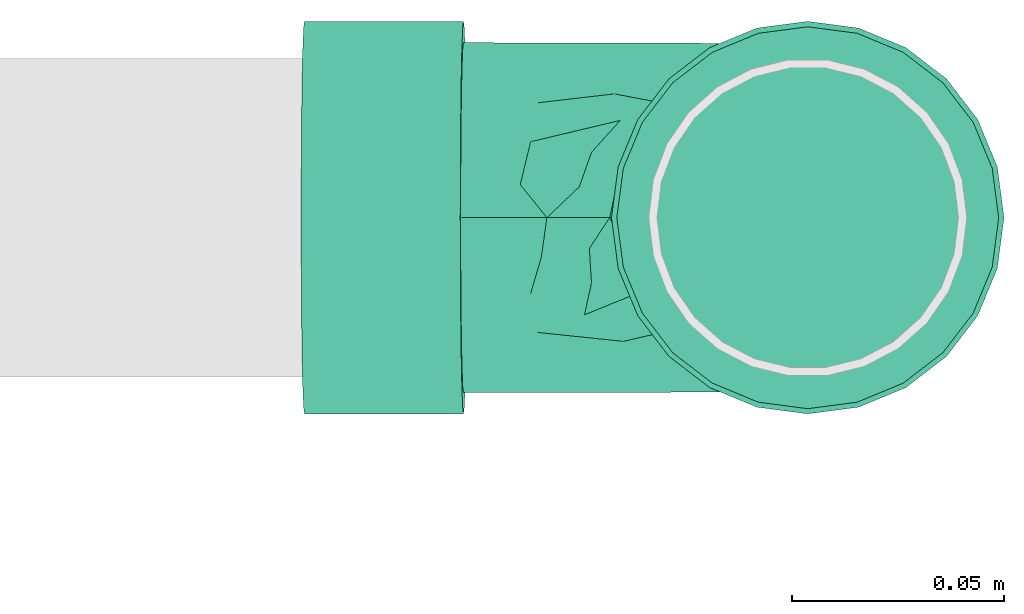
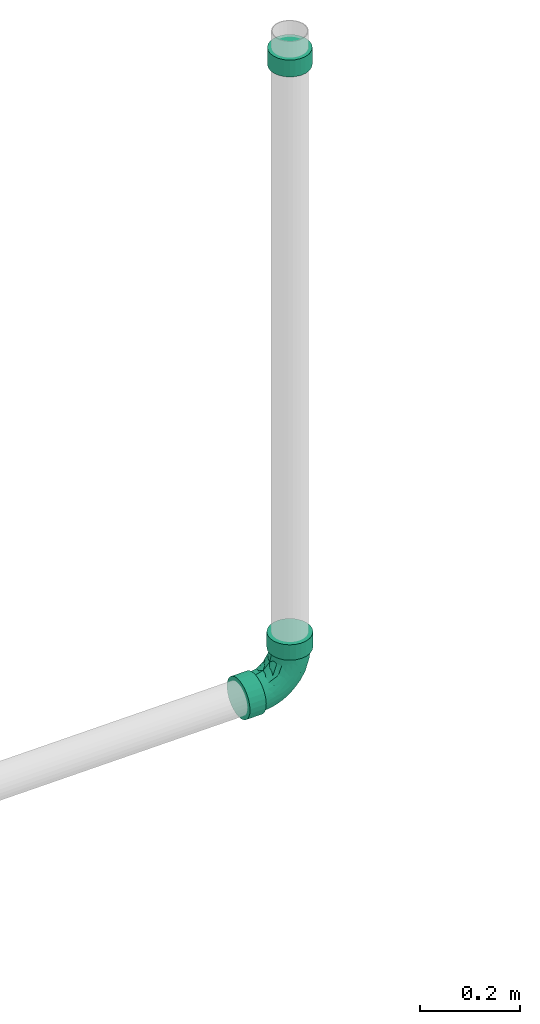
# One storey, part 17 of 18: 2 flow fittings.
"""IFC2X3 building model written with IfcOpenShell, lengths in millimetres."""

from ifc_helpers import new_model, entity, si_unit, converted_unit, derived_unit, direction, frame, origin_with_axes, place, context, subcontext, project, spatial, open_shell, surface_model, source, transform, mapped, type_object, element, save


model = new_model("IFC2X3")

# Units and contexts
model_context = context("Model", 3, precision=0.01, world=frame((0.0, 4.29681676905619e-09, 0.0)), true_north=direction((4.01073788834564e-13, 1.0)))
plan_context = context("Plan", 3, precision=0.01, world=frame((0.0, 4.29681676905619e-09, 0.0)), true_north=direction((4.01073788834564e-13, 1.0)))
body_context = subcontext(model_context, "Body", "Model", "MODEL_VIEW")
ifc_project = project(units=[converted_unit("PLANEANGLEUNIT", "DEGREE", entity("IfcPositiveLengthMeasure", 0.0174532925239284), si_unit("PLANEANGLEUNIT", "RADIAN"), dimensions=[0, 0, 0, 0, 0, 0, 0]), si_unit("AREAUNIT", "SQUARE_METRE"), si_unit("LENGTHUNIT", "METRE", prefix="MILLI"), si_unit("MASSUNIT", "GRAM", prefix="KILO"), si_unit("POWERUNIT", "WATT"), si_unit("PRESSUREUNIT", "PASCAL", prefix="KILO"), si_unit("FORCEUNIT", "NEWTON", prefix="KILO"), si_unit("ELECTRICVOLTAGEUNIT", "VOLT"), si_unit("ELECTRICCURRENTUNIT", "AMPERE"), si_unit("THERMODYNAMICTEMPERATUREUNIT", "DEGREE_CELSIUS"), si_unit("TIMEUNIT", "SECOND"), si_unit("VOLUMEUNIT", "CUBIC_METRE"), derived_unit("LINEARVELOCITYUNIT", [(si_unit("LENGTHUNIT", "METRE"), 1), (si_unit("TIMEUNIT", "SECOND"), -1)]), derived_unit("VOLUMETRICFLOWRATEUNIT", [(si_unit("VOLUMEUNIT", "CUBIC_METRE"), 1), (si_unit("TIMEUNIT", "SECOND"), -1)]), derived_unit("THERMALTRANSMITTANCEUNIT", [(si_unit("POWERUNIT", "WATT"), 1), (si_unit("THERMODYNAMICTEMPERATUREUNIT", "KELVIN"), -1), (si_unit("AREAUNIT", "SQUARE_METRE"), -1)]), derived_unit("SOUNDPRESSUREUNIT", [(si_unit("PRESSUREUNIT", "PASCAL"), 1)])], contexts=[model_context, plan_context])

# Site, building, storey
site_placement = place(None, frame((0.0, -4.29681676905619e-09, 0.0), z_axis=(0.0, 0.0, 1.0), x_axis=(1.0, 0.0, 0.0)))
site = spatial("IfcSite", under=ifc_project, at=site_placement, Name="ENGM", CompositionType="ELEMENT")
building_placement = place(site_placement, frame((0.0, 4.29681676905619e-09, 0.0), z_axis=(0.0, 0.0, 1.0), x_axis=(1.0, 0.0, 0.0)))
building = spatial("IfcBuilding", under=site, at=building_placement, Name="TI", CompositionType="ELEMENT")
storey_placement = place(building_placement, frame((0.0, 0.0, 204000.0), z_axis=(0.0, 0.0, 1.0), x_axis=(1.0, 0.0, 0.0)))
storey = spatial("IfcBuildingStorey", under=building, at=storey_placement, Name="Nivå D", CompositionType="ELEMENT", Elevation=204000.0)

# Flow fittings
pipe_fitting_type_1 = type_object("IfcPipeFittingType", Name="magi_sewer_bend_001", PredefinedType="BEND")
shared_shape_1 = source(origin_with_axes(), body_context, "Body", "SurfaceModel", [
    surface_model("IfcShellBasedSurfaceModel", [(-118.63645, -44.67407, -11.97038), (-118.63645, -11.97038, -44.67407), (-118.63645, -23.125, -40.05367), (-118.63645, -32.70369, -32.70369), (-118.63645, 0.0, -46.25), (-118.63645, -40.05367, -23.125), (-118.63645, -46.25, 0.0), (-118.63645, 11.97038, -44.67407), (-118.63645, 32.70369, -32.70369), (-118.63645, 23.125, -40.05367), (-118.63645, 44.67407, -11.97038), (-118.63645, 40.05367, -23.125), (-118.63645, -32.70369, 32.70369), (-118.63645, -44.67407, 11.97038), (-118.63645, -40.05367, 23.125), (-118.63645, 40.05367, 23.125), (-118.63645, -23.125, 40.05367), (-118.63645, -11.97038, 44.67407), (-118.63645, 0.0, 46.25), (-118.63645, 11.97038, 44.67407), (-118.63645, 44.67407, 11.97038), (-118.63645, 46.25, 0.0), (-118.63645, 23.125, 40.05367), (-118.63645, 32.70369, 32.70369), (-81.13645, 0.0, 46.25), (-81.13645, -11.97038, 44.67407), (-81.13645, -23.125, 40.05367), (-81.13645, -32.70369, 32.70369), (-81.13645, -40.05367, 23.125), (-81.13645, -44.67407, 11.97038), (-81.13645, 40.05367, 23.125), (-81.13645, -44.67407, -11.97038), (-81.13645, 23.125, 40.05367), (-81.13645, 32.70369, 32.70369), (-81.13645, 11.97038, 44.67407), (-81.13645, 44.67407, 11.97038), (-81.13645, 44.67407, -11.97038), (-81.13645, 46.25, 0.0), (-81.13645, -32.70369, -32.70369), (-81.13645, -40.05367, -23.125), (-81.13645, -23.125, -40.05367), (-81.13645, -11.97038, -44.67407), (-81.13645, 11.97038, -44.67407), (-81.13645, 32.70369, -32.70369), (-81.13645, 40.05367, -23.125), (-81.13645, 23.125, -40.05367), (-81.13645, 0.0, -46.25), (-81.13645, -46.25, 0.0), (-38.07111, 119.28745, 23.125), (-44.26658, 119.39071, 0.0), (-42.69087, 119.36444, 11.97038), (-9.99172, 118.81946, 44.67407), (-30.72215, 119.16497, 32.70369), (-30.72215, 119.16497, -32.70369), (-21.14479, 119.00535, 40.05367), (42.02511, 117.95251, 23.125), (-9.99172, 118.81946, -44.67407), (-42.69087, 119.36444, -11.97038), (-38.07111, 119.28745, -23.125), (-21.14479, 119.00535, -40.05367), (1.977, 118.61999, 46.25), (34.67615, 118.075, 32.70369), (13.94572, 118.42051, 44.67407), (25.09879, 118.23462, 40.05367), (1.977, 118.61999, -46.25), (46.64486, 117.87552, 11.97038), (48.22058, 117.84926, 0.0), (46.64486, 117.87552, -11.97038), (25.09879, 118.23462, -40.05367), (13.94572, 118.42051, -44.67407), (34.67615, 118.075, -32.70369), (42.02511, 117.95251, -23.125), (46.01995, 80.38072, -11.97038), (47.59566, 80.35446, 0.0), (46.01995, 80.38072, 11.97038), (41.4002, 80.45773, 23.125), (34.05123, 80.5802, 32.70369), (24.47388, 80.73983, 40.05367), (13.32081, 80.92571, 44.67407), (-10.61663, 81.32467, 44.67407), (24.47388, 80.73983, -40.05367), (34.05123, 80.5802, -32.70369), (41.4002, 80.45773, -23.125), (13.32081, 80.92571, -44.67407), (-10.61663, 81.32467, -44.67407), (1.35209, 81.12519, -46.25), (-38.69603, 81.79266, 23.125), (-21.7697, 81.51055, 40.05367), (-31.34706, 81.67018, 32.70369), (-43.31578, 81.86966, 11.97038), (-31.34706, 81.67018, -32.70369), (-21.7697, 81.51055, -40.05367), (-43.31578, 81.86966, -11.97038), (-38.69603, 81.79266, -23.125), (-44.89149, 81.89592, 0.0), (1.35209, 81.12519, 46.25), (-81.13645, 10.67629, -39.84444), (-81.13645, 0.0, -41.25), (-81.13645, 35.72355, -20.625), (-81.13645, 20.625, -35.72355), (-81.13645, -10.67629, -39.84444), (-81.13645, 29.16816, -29.16816), (-81.13645, 39.84444, -10.67629), (-81.13645, -29.16816, -29.16816), (-81.13645, -35.72355, -20.625), (-81.13645, -20.625, -35.72355), (-81.13645, -39.84444, -10.67629), (-81.13645, -41.25, 0.0), (-81.13645, -39.84444, 10.67629), (-81.13645, 41.25, 0.0), (-81.13645, 35.72355, 20.625), (-81.13645, 39.84444, 10.67629), (-81.13645, 10.67629, 39.84444), (-81.13645, 20.625, 35.72355), (-81.13645, 29.16816, 29.16816), (-81.13645, -35.72355, 20.625), (-81.13645, -29.16816, 29.16816), (-81.13645, -10.67629, 39.84444), (-81.13645, -20.625, 35.72355), (-81.13645, 0.0, 41.25), (-9.32272, 81.3031, -39.84444), (37.07067, 80.52988, -20.625), (1.35209, 81.12519, -41.25), (-27.81202, 81.61126, -29.16816), (-19.27005, 81.46889, -35.72355), (41.191, 80.46121, 10.67629), (-34.3665, 81.7205, -20.625), (21.97422, 80.78149, -35.72355), (30.51619, 80.63912, -29.16816), (12.02689, 80.94728, -39.84444), (41.191, 80.46121, -10.67629), (42.59636, 80.43779, 0.0), (-38.48682, 81.78918, -10.67629), (-39.89219, 81.81259, 0.0), (-38.48682, 81.78918, 10.67629), (-34.3665, 81.7205, 20.625), (-27.81202, 81.61126, 29.16816), (-19.27005, 81.46889, 35.72355), (-9.32272, 81.3031, 39.84444), (30.51619, 80.63912, 29.16816), (1.35209, 81.12519, 41.25), (37.07067, 80.52988, 20.625), (12.02689, 80.94728, 39.84444), (21.97422, 80.78149, 35.72355), (-54.39442, -36.17404, 12.99457), (-59.16193, -32.03479, 23.17612), (-43.28809, -35.32005, 0.0), (-60.84196, -38.07033, 0.0), (23.37041, 18.86095, 10.62349), (15.01238, 9.79779, 15.95055), (11.94444, 2.36888, 8.70418), (-61.88845, -5.46813, 40.5533), (-56.57345, 6.31813, 41.17681), (32.38619, 35.45125, 8.39828), (27.1418, 25.72883, 0.0), (-58.98118, -15.54274, 37.10832), (-30.85607, -9.76023, 34.5265), (-40.12451, -0.47476, 40.00525), (-68.72839, -25.45103, 31.89237), (-35.98602, -31.79092, 8.39828), (-26.17756, -26.70928, 0.0), (-6.74396, 6.85729, 33.83574), (-14.04648, -9.83948, 26.468), (-39.19131, 65.31528, 17.88497), (-14.23306, 70.22892, 38.62481), (-4.65309, 60.53836, 41.14609), (-62.27481, 16.19182, 38.95705), (-10.07336, 26.71188, 40.49708), (-19.56807, 7.50587, 38.60631), (-3.30313, 21.70945, 37.91013), (-70.23759, 24.97294, 33.58539), (-13.65396, 39.94702, 41.16014), (-29.72786, 30.22745, 40.21467), (-23.93531, 17.70774, 41.06244), (-62.06374, 44.71052, 9.37653), (-64.65311, 40.27431, 17.88497), (26.59281, 68.29472, 31.89237), (-63.23862, 34.37113, 27.04031), (-42.66984, 45.56196, 29.16641), (-51.8902, 44.18713, 22.91415), (-33.39862, 63.50778, 27.07262), (16.52346, 58.71398, 37.10832), (24.38357, 51.08549, 30.6589), (33.01624, 58.61988, 23.17612), (25.6206, 31.60074, 20.54424), (37.07546, 53.78405, 12.99457), (-9.06702, -18.0985, 0.0), (-19.24778, -23.05286, 10.62349), (6.4987, 61.78873, 40.5533), (-44.29082, 17.50905, 40.50755), (-39.59673, 10.04822, 41.2375), (18.24709, 8.76416, 0.0), (39.07893, 60.1991, 0.0), (-43.03932, 27.67385, 38.13016), (-32.0233, -25.09044, 20.54424), (-51.48473, -23.52888, 30.6589), (-29.00264, 52.56785, 34.64816), (-24.07159, 68.2883, 33.76756), (-50.57861, 53.84244, 7.25586), (-60.71022, 46.66243, 0.0), (19.67072, 31.77171, 27.9348), (10.27307, 30.68913, 34.5265), (10.07219, 13.88056, 26.468), (-45.64426, 61.47939, 0.0), (-41.82083, 67.74942, 7.78687), (-37.43075, 42.9787, 33.8492), (-55.83247, 27.89915, 34.6893), (-31.91377, -18.01784, 28.91129), (-22.76666, 42.19771, 39.59466), (-32.08476, 39.39323, 37.49357), (-16.86515, 55.15006, 39.26198), (-50.12448, 50.96685, 15.38789), (1.14334, 40.11103, 40.00525), (-2.41073, -11.82067, 8.53117), (-9.77489, -14.76888, 15.71619), (-2.34518, 2.38459, 28.45121), (3.16609, -3.21929, 16.67866), (36.03651, 42.69349, 0.0), (4.59003, -4.66717, 0.0), (-62.94239, 34.4523, -27.07262), (-32.0951, -19.13853, -27.9348), (-30.85607, -9.76023, -34.5265), (-14.04648, -9.83948, -26.46799), (-60.45241, 5.66128, -41.14609), (16.52346, 58.71398, -37.10832), (10.27307, 30.68913, -34.5265), (1.14334, 40.11103, -40.00525), (-69.98198, 15.4014, -38.62481), (-23.79901, 70.644, -33.58539), (-33.31253, 63.80261, -27.04031), (-67.04309, 42.94403, -7.78687), (10.07219, 13.88056, -26.468), (18.54716, 31.60909, -28.91129), (-64.65311, 40.27431, -17.88497), (11.94444, 2.36888, -8.70418), (15.01238, 9.79779, -15.95055), (23.37041, 18.86095, -10.62349), (-38.85309, 32.73676, -37.49358), (-41.81246, 23.4667, -39.59466), (-52.07724, 29.87463, -34.64816), (-6.74396, 6.85729, -33.83574), (-26.5403, 10.5171, -40.49708), (-7.17874, 19.69043, -38.60631), (-21.65139, 3.66445, -37.91013), (-67.87768, 25.20623, -33.76756), (-54.39442, -36.17404, -12.99457), (-44.84457, 43.42318, -29.16641), (-59.16193, -32.03479, -23.17612), (-32.0233, -25.09044, -20.54424), (-19.24778, -23.05286, -10.62349), (-35.98602, -31.79092, -8.39828), (-58.98118, -15.54274, -37.10832), (-61.88845, -5.46813, -40.5533), (-54.86135, 17.78185, -39.26198), (-39.71394, 14.31775, -41.16014), (-15.15181, 62.53599, -38.95705), (-5.37449, 56.67088, -41.17681), (-43.67006, 62.80019, -9.37653), (-52.99211, 51.46884, -7.25586), (-26.95278, 43.49451, -38.13017), (-16.76854, 44.57645, -40.50755), (-43.31628, 52.61934, -22.91415), (6.49871, 61.78872, -40.5533), (-2.41073, -11.82067, -8.53117), (37.07546, 53.78405, -12.99457), (33.01624, 58.61988, -23.17612), (-68.72839, -25.45103, -31.89237), (-29.72786, 30.22745, -40.21467), (-17.30642, 24.22707, -41.06244), (26.59281, 68.29472, -31.89237), (-51.48473, -23.52888, -30.6589), (-39.19132, 65.31528, -17.88497), (32.38619, 35.45125, -8.39828), (-42.34897, 38.14177, -33.8492), (-26.96486, 56.28963, -34.6893), (25.62061, 31.60074, -20.54424), (24.38358, 51.08549, -30.6589), (-9.38697, 39.75868, -41.2375), (-50.12448, 50.96685, -15.38789), (-40.12451, -0.47476, -40.00525), (0.23726, -0.24125, -23.998), (-9.77489, -14.76888, -15.71619), (3.16609, -3.2193, -16.67866)], [open_shell([[[0, 1, 2]], [[0, 2, 3]], [[1, 0, 4]], [[0, 3, 5]], [[4, 0, 6]], [[7, 8, 9]], [[8, 7, 4]], [[8, 10, 11]], [[10, 8, 4]], [[4, 6, 10]], [[6, 12, 10]], [[13, 14, 12]], [[10, 12, 15]], [[16, 17, 18]], [[16, 18, 12]], [[19, 12, 18]], [[10, 20, 21]], [[15, 20, 10]], [[15, 22, 23]], [[22, 15, 19]], [[12, 19, 15]], [[6, 13, 12]], [[24, 25, 26]], [[24, 26, 27]], [[27, 28, 29]], [[24, 27, 30]], [[27, 31, 30]], [[32, 30, 33]], [[30, 32, 34]], [[35, 36, 37]], [[30, 34, 24]], [[35, 30, 36]], [[27, 29, 31]], [[36, 30, 31]], [[38, 31, 39]], [[40, 41, 31]], [[40, 31, 38]], [[42, 31, 41]], [[36, 43, 44]], [[36, 31, 43]], [[43, 42, 45]], [[31, 42, 43]], [[41, 46, 42]], [[31, 29, 47]], [[36, 10, 37]], [[44, 11, 36]], [[9, 43, 45]], [[44, 43, 8]], [[7, 45, 42]], [[36, 11, 10]], [[10, 21, 37]], [[7, 9, 45]], [[8, 43, 9]], [[8, 11, 44]], [[4, 7, 42]], [[42, 46, 4]], [[46, 41, 1]], [[5, 39, 31]], [[39, 3, 38]], [[0, 31, 47]], [[1, 40, 2]], [[40, 1, 41]], [[40, 38, 2]], [[38, 3, 2]], [[39, 5, 3]], [[0, 5, 31]], [[47, 6, 0]], [[46, 1, 4]], [[29, 13, 47]], [[28, 14, 29]], [[16, 27, 26]], [[28, 27, 12]], [[17, 26, 25]], [[29, 14, 13]], [[13, 6, 47]], [[17, 16, 26]], [[12, 27, 16]], [[12, 14, 28]], [[18, 17, 25]], [[25, 24, 18]], [[33, 22, 32]], [[35, 15, 30]], [[33, 30, 23]], [[20, 35, 37]], [[32, 19, 34]], [[32, 22, 19]], [[19, 18, 34]], [[33, 23, 22]], [[30, 15, 23]], [[20, 15, 35]], [[37, 21, 20]], [[34, 18, 24]], [[48, 49, 50]], [[51, 48, 52]], [[53, 48, 51]], [[51, 52, 54]], [[55, 56, 51]], [[57, 53, 58]], [[53, 57, 49]], [[53, 56, 59]], [[53, 49, 48]], [[51, 56, 53]], [[51, 60, 61]], [[62, 63, 61]], [[61, 55, 51]], [[64, 55, 65]], [[55, 64, 56]], [[66, 67, 65]], [[64, 68, 69]], [[64, 65, 68]], [[70, 67, 71]], [[67, 70, 68]], [[65, 67, 68]], [[60, 62, 61]], [[72, 73, 74]], [[75, 72, 74]], [[76, 77, 78]], [[72, 75, 76]], [[76, 79, 80]], [[72, 81, 82]], [[81, 72, 80]], [[83, 84, 85]], [[80, 72, 76]], [[83, 80, 84]], [[76, 78, 79]], [[84, 80, 79]], [[86, 79, 87]], [[84, 79, 86]], [[86, 87, 88]], [[84, 86, 89]], [[84, 90, 91]], [[90, 84, 92]], [[90, 92, 93]], [[92, 84, 94]], [[84, 89, 94]], [[79, 78, 95]], [[84, 56, 85]], [[91, 59, 84]], [[58, 90, 93]], [[91, 90, 53]], [[57, 93, 92]], [[84, 59, 56]], [[56, 64, 85]], [[57, 58, 93]], [[53, 90, 58]], [[53, 59, 91]], [[49, 57, 92]], [[92, 94, 49]], [[94, 89, 50]], [[54, 87, 79]], [[87, 52, 88]], [[51, 79, 95]], [[50, 86, 48]], [[86, 50, 89]], [[86, 88, 48]], [[88, 52, 48]], [[87, 54, 52]], [[51, 54, 79]], [[95, 60, 51]], [[94, 50, 49]], [[78, 62, 95]], [[77, 63, 78]], [[55, 76, 75]], [[77, 76, 61]], [[65, 75, 74]], [[78, 63, 62]], [[62, 60, 95]], [[65, 55, 75]], [[61, 76, 55]], [[61, 63, 77]], [[66, 65, 74]], [[74, 73, 66]], [[81, 71, 82]], [[83, 68, 80]], [[81, 80, 70]], [[69, 83, 85]], [[82, 67, 72]], [[82, 71, 67]], [[67, 66, 72]], [[81, 70, 71]], [[80, 68, 70]], [[69, 68, 83]], [[85, 64, 69]], [[72, 66, 73]], [[96, 97, 98]], [[99, 96, 98]], [[100, 98, 97]], [[101, 99, 98]], [[102, 98, 100]], [[103, 104, 105]], [[100, 105, 104]], [[104, 106, 100]], [[106, 102, 100]], [[107, 108, 106]], [[109, 102, 106]], [[110, 111, 109]], [[108, 110, 106]], [[112, 113, 114]], [[108, 114, 110]], [[114, 108, 112]], [[115, 116, 108]], [[117, 108, 116]], [[118, 117, 116]], [[117, 112, 108]], [[117, 119, 112]], [[109, 106, 110]], [[120, 121, 122]], [[123, 120, 124]], [[125, 121, 123]], [[120, 123, 121]], [[125, 123, 126]], [[127, 121, 128]], [[127, 129, 122]], [[121, 127, 122]], [[121, 125, 130]], [[130, 125, 131]], [[126, 132, 133]], [[133, 134, 135]], [[136, 126, 135]], [[136, 137, 138]], [[136, 139, 126]], [[138, 140, 136]], [[125, 139, 141]], [[126, 139, 125]], [[139, 142, 143]], [[142, 139, 140]], [[136, 140, 139]], [[135, 126, 133]], [[144, 145, 115]], [[146, 144, 147]], [[148, 149, 150]], [[144, 115, 108]], [[108, 147, 144]], [[119, 151, 152]], [[116, 115, 145]], [[153, 148, 154]], [[155, 156, 157]], [[158, 118, 116]], [[155, 118, 158]], [[159, 146, 160]], [[161, 156, 162]], [[163, 135, 134]], [[138, 164, 165]], [[112, 166, 113]], [[167, 168, 169]], [[113, 170, 114]], [[117, 151, 119]], [[171, 172, 173]], [[174, 111, 175]], [[175, 111, 110]], [[176, 139, 143]], [[109, 111, 174]], [[177, 178, 179]], [[180, 163, 178]], [[177, 110, 114]], [[119, 152, 112]], [[181, 182, 176]], [[114, 170, 177]], [[183, 184, 185]], [[180, 135, 163]], [[160, 186, 187]], [[140, 188, 142]], [[160, 187, 159]], [[140, 138, 165]], [[189, 190, 173]], [[185, 125, 141]], [[141, 139, 183]], [[183, 185, 141]], [[148, 191, 154]], [[185, 192, 125]], [[193, 166, 189]], [[145, 194, 195]], [[180, 196, 197]], [[198, 199, 174]], [[200, 201, 202]], [[203, 204, 133]], [[193, 205, 206]], [[163, 134, 204]], [[181, 143, 142]], [[180, 136, 135]], [[162, 156, 207]], [[208, 196, 209]], [[118, 155, 117]], [[197, 137, 136]], [[164, 138, 137]], [[210, 171, 165]], [[182, 181, 201]], [[153, 184, 148]], [[196, 180, 178]], [[166, 112, 152]], [[206, 178, 177]], [[175, 179, 211]], [[210, 208, 171]], [[188, 165, 212]], [[156, 155, 195]], [[151, 155, 157]], [[207, 194, 162]], [[156, 161, 168]], [[188, 181, 142]], [[168, 161, 169]], [[212, 201, 181]], [[201, 161, 202]], [[184, 200, 202]], [[187, 213, 214]], [[194, 145, 144]], [[158, 145, 195]], [[176, 183, 139]], [[184, 183, 182]], [[189, 166, 152]], [[170, 166, 206]], [[193, 209, 205]], [[210, 164, 197]], [[177, 175, 110]], [[174, 175, 211]], [[198, 204, 203]], [[211, 179, 163]], [[214, 194, 187]], [[215, 216, 202]], [[162, 215, 161]], [[149, 216, 150]], [[189, 173, 172]], [[212, 165, 171]], [[168, 173, 157]], [[171, 173, 167]], [[165, 188, 140]], [[181, 188, 212]], [[155, 151, 117]], [[152, 151, 157]], [[108, 107, 147]], [[192, 185, 217]], [[192, 131, 125]], [[213, 187, 186]], [[159, 194, 144]], [[213, 150, 216]], [[185, 153, 217]], [[184, 202, 149]], [[189, 152, 190]], [[193, 189, 172]], [[209, 193, 172]], [[166, 193, 206]], [[208, 209, 172]], [[205, 209, 196]], [[198, 174, 211]], [[174, 199, 109]], [[204, 211, 163]], [[199, 198, 203]], [[204, 198, 211]], [[133, 204, 134]], [[152, 157, 190]], [[157, 173, 190]], [[171, 208, 172]], [[196, 208, 210]], [[177, 179, 175]], [[163, 179, 178]], [[218, 191, 150]], [[214, 213, 216]], [[150, 213, 218]], [[191, 148, 150]], [[213, 186, 218]], [[184, 149, 148]], [[202, 216, 149]], [[216, 162, 214]], [[194, 214, 162]], [[196, 178, 205]], [[206, 205, 178]], [[180, 197, 136]], [[210, 197, 196]], [[156, 168, 157]], [[161, 201, 169]], [[201, 212, 169]], [[167, 169, 212]], [[171, 167, 212]], [[168, 167, 173]], [[194, 159, 187]], [[146, 159, 144]], [[217, 153, 154]], [[184, 153, 185]], [[166, 170, 113]], [[177, 170, 206]], [[197, 164, 137]], [[165, 164, 210]], [[145, 158, 116]], [[155, 158, 195]], [[181, 176, 143]], [[183, 176, 182]], [[156, 195, 207]], [[194, 207, 195]], [[184, 182, 200]], [[201, 200, 182]], [[216, 215, 162]], [[202, 161, 215]], [[98, 219, 101]], [[220, 221, 222]], [[97, 96, 223]], [[224, 225, 226]], [[96, 99, 227]], [[123, 228, 229]], [[199, 230, 109]], [[231, 225, 232]], [[233, 102, 230]], [[234, 235, 236]], [[237, 238, 239]], [[225, 231, 240]], [[241, 242, 243]], [[244, 99, 101]], [[104, 245, 106]], [[127, 224, 129]], [[245, 147, 106]], [[239, 219, 246]], [[245, 104, 247]], [[219, 98, 233]], [[248, 249, 250]], [[219, 233, 246]], [[251, 105, 100]], [[130, 131, 192]], [[252, 100, 97]], [[248, 245, 247]], [[253, 254, 223]], [[255, 120, 256]], [[257, 258, 203]], [[259, 255, 260]], [[133, 132, 257]], [[219, 239, 244]], [[261, 229, 246]], [[122, 262, 256]], [[234, 218, 263]], [[123, 124, 228]], [[255, 124, 120]], [[264, 265, 121]], [[122, 129, 262]], [[98, 102, 233]], [[266, 103, 105]], [[123, 229, 126]], [[254, 267, 268]], [[269, 224, 127]], [[270, 266, 251]], [[257, 132, 271]], [[122, 256, 120]], [[217, 154, 272]], [[128, 121, 265]], [[269, 127, 128]], [[264, 130, 192]], [[270, 251, 221]], [[264, 192, 217]], [[249, 186, 160]], [[154, 191, 236]], [[130, 264, 121]], [[259, 273, 274]], [[96, 227, 223]], [[265, 275, 276]], [[132, 126, 271]], [[260, 277, 268]], [[104, 103, 247]], [[274, 246, 229]], [[271, 261, 278]], [[253, 238, 254]], [[252, 223, 279]], [[252, 251, 100]], [[242, 240, 243]], [[279, 221, 251]], [[221, 240, 222]], [[225, 224, 276]], [[262, 224, 226]], [[232, 275, 231]], [[225, 240, 242]], [[250, 249, 160]], [[248, 220, 222]], [[266, 247, 103]], [[248, 247, 270]], [[275, 265, 264]], [[269, 265, 276]], [[260, 255, 256]], [[228, 255, 274]], [[259, 237, 273]], [[253, 227, 244]], [[229, 271, 126]], [[257, 271, 278]], [[258, 230, 199]], [[278, 261, 233]], [[280, 240, 231]], [[281, 282, 263]], [[235, 275, 236]], [[280, 282, 281]], [[260, 268, 267]], [[279, 223, 254]], [[242, 268, 226]], [[254, 268, 241]], [[223, 252, 97]], [[251, 252, 279]], [[224, 262, 129]], [[256, 262, 226]], [[147, 245, 146]], [[147, 107, 106]], [[249, 263, 186]], [[245, 250, 146]], [[248, 222, 281]], [[154, 236, 272]], [[234, 263, 282]], [[272, 275, 264]], [[260, 256, 277]], [[259, 260, 267]], [[237, 259, 267]], [[255, 259, 274]], [[238, 237, 267]], [[273, 237, 239]], [[258, 257, 278]], [[257, 203, 133]], [[230, 278, 233]], [[203, 258, 199]], [[230, 258, 278]], [[109, 230, 102]], [[256, 226, 277]], [[226, 268, 277]], [[254, 238, 267]], [[239, 238, 253]], [[229, 261, 271]], [[233, 261, 246]], [[281, 263, 249]], [[235, 234, 282]], [[236, 191, 234]], [[280, 235, 282]], [[218, 234, 191]], [[218, 186, 263]], [[275, 235, 231]], [[248, 281, 249]], [[280, 281, 222]], [[239, 246, 273]], [[274, 273, 246]], [[219, 244, 101]], [[253, 244, 239]], [[225, 242, 226]], [[240, 221, 243]], [[221, 279, 243]], [[241, 243, 279]], [[254, 241, 279]], [[242, 241, 268]], [[146, 250, 160]], [[248, 250, 245]], [[275, 272, 236]], [[217, 272, 264]], [[255, 228, 124]], [[229, 228, 274]], [[244, 227, 99]], [[223, 227, 253]], [[251, 266, 105]], [[247, 266, 270]], [[265, 269, 128]], [[224, 269, 276]], [[248, 270, 220]], [[221, 220, 270]], [[225, 276, 232]], [[275, 232, 276]], [[240, 280, 222]], [[235, 280, 231]]])]),
])
flow_fitting_1_placement = place(storey_placement, frame((593402.06398, 578148.49495, 6042.31116000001), z_axis=(6.46234853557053e-27, 0.99999999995, -9.9999999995e-06), x_axis=(2.9999999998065e-06, -9.999999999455e-06, -0.9999999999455)))
element("IfcFlowFitting", 1, at=flow_fitting_1_placement, inside=storey, type_object=pipe_fitting_type_1, Name="magi_sewer_bend_001", context=body_context, shape_type="MappedRepresentation", body=[
    mapped(shared_shape_1, transform((0.0, 0.0, 0.0), scale=1.0)),
])
pipe_fitting_type_2 = type_object("IfcPipeFittingType", Name="magi_sewer_union_NOR", PredefinedType="CONNECTOR")
shared_shape_2 = source(origin_with_axes(), body_context, "Body", "SurfaceModel", [
    surface_model("IfcShellBasedSurfaceModel", [(0.0, 31.81981, 31.81981), (0.0, 38.97115, 22.5), (0.0, 22.5, 38.97115), (0.0, 22.5, -38.97115), (0.0, 11.64686, -43.46666), (0.0, 0.0, -45.0), (0.0, 31.81981, -31.81981), (0.0, 43.46666, -11.64686), (0.0, 38.97115, -22.5), (0.0, -31.81981, -31.81981), (0.0, -11.64686, -43.46666), (0.0, -22.5, -38.97115), (0.0, -38.97115, -22.5), (0.0, -43.46666, -11.64686), (0.0, -22.5, 38.97115), (0.0, -45.0, 0.0), (0.0, 43.46666, 11.64686), (0.0, 0.0, 45.0), (0.0, 11.64686, 43.46666), (0.0, -38.97115, 22.5), (0.0, -31.81981, 31.81981), (0.0, -43.46666, 11.64686), (0.0, -11.64686, 43.46666), (0.0, 45.0, 0.0), (41.25, 0.0, -45.0), (41.25, 11.64686, -43.46666), (41.25, 22.5, -38.97115), (41.25, 31.81981, -31.81981), (41.25, 38.97115, -22.5), (41.25, 43.46666, -11.64686), (41.25, -31.81981, -31.81981), (41.25, -22.5, -38.97115), (41.25, -11.64686, -43.46666), (41.25, -43.46666, -11.64686), (41.25, -38.97115, -22.5), (41.25, -22.5, 38.97115), (41.25, -45.0, 0.0), (41.25, 43.46666, 11.64686), (41.25, 38.97115, 22.5), (41.25, 22.5, 38.97115), (41.25, 31.81981, 31.81981), (41.25, 0.0, 45.0), (41.25, 11.64686, 43.46666), (41.25, -31.81981, 31.81981), (41.25, -38.97115, 22.5), (41.25, -43.46666, 11.64686), (41.25, -11.64686, 43.46666), (41.25, 45.0, 0.0)], [open_shell([[[0, 1, 2]], [[3, 4, 5]], [[6, 3, 5]], [[7, 8, 6]], [[5, 7, 6]], [[9, 7, 5]], [[10, 11, 5]], [[11, 9, 5]], [[12, 13, 9]], [[14, 9, 13]], [[13, 15, 14]], [[7, 9, 14]], [[7, 1, 16]], [[17, 1, 7]], [[2, 1, 17]], [[18, 2, 17]], [[19, 20, 15]], [[15, 21, 19]], [[22, 17, 14]], [[15, 20, 14]], [[7, 14, 17]], [[23, 7, 16]], [[24, 25, 26]], [[24, 26, 27]], [[27, 28, 29]], [[27, 29, 24]], [[24, 29, 30]], [[24, 31, 32]], [[24, 30, 31]], [[30, 33, 34]], [[33, 30, 35]], [[35, 36, 33]], [[35, 30, 29]], [[37, 38, 29]], [[29, 38, 35]], [[35, 38, 39]], [[39, 38, 40]], [[41, 39, 42]], [[36, 43, 44]], [[44, 45, 36]], [[35, 41, 46]], [[35, 43, 36]], [[39, 41, 35]], [[47, 37, 29]], [[45, 15, 36]], [[44, 21, 45]], [[20, 43, 35]], [[44, 43, 19]], [[14, 35, 46]], [[44, 19, 21]], [[21, 15, 45]], [[22, 14, 46]], [[20, 35, 14]], [[20, 19, 43]], [[17, 22, 46]], [[46, 41, 17]], [[2, 42, 39]], [[40, 0, 39]], [[16, 38, 37]], [[40, 38, 1]], [[23, 37, 47]], [[42, 18, 41]], [[42, 2, 18]], [[41, 18, 17]], [[39, 0, 2]], [[40, 1, 0]], [[16, 1, 38]], [[37, 23, 16]], [[29, 23, 47]], [[28, 7, 29]], [[6, 27, 26]], [[28, 27, 8]], [[3, 26, 25]], [[28, 8, 7]], [[7, 23, 29]], [[4, 3, 25]], [[6, 26, 3]], [[6, 8, 27]], [[5, 4, 25]], [[25, 24, 5]], [[11, 32, 31]], [[30, 9, 31]], [[13, 34, 33]], [[30, 34, 12]], [[15, 33, 36]], [[10, 5, 32]], [[32, 11, 10]], [[32, 5, 24]], [[31, 9, 11]], [[30, 12, 9]], [[13, 12, 34]], [[33, 15, 13]]])]),
])
flow_fitting_2_placement = place(storey_placement, frame((593402.06541, 578148.46892, 7546.83744999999), z_axis=(1.29246970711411e-26, 0.999999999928, 1.1999999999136e-05), x_axis=(-6.9999999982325e-06, -1.1999999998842e-05, 0.9999999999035)))
element("IfcFlowFitting", 2, at=flow_fitting_2_placement, inside=storey, type_object=pipe_fitting_type_2, Name="magi_sewer_union_NOR", context=body_context, shape_type="MappedRepresentation", body=[
    mapped(shared_shape_2, transform((0.0, 0.0, 0.0), scale=1.0)),
])

save(model, "model.ifc")
